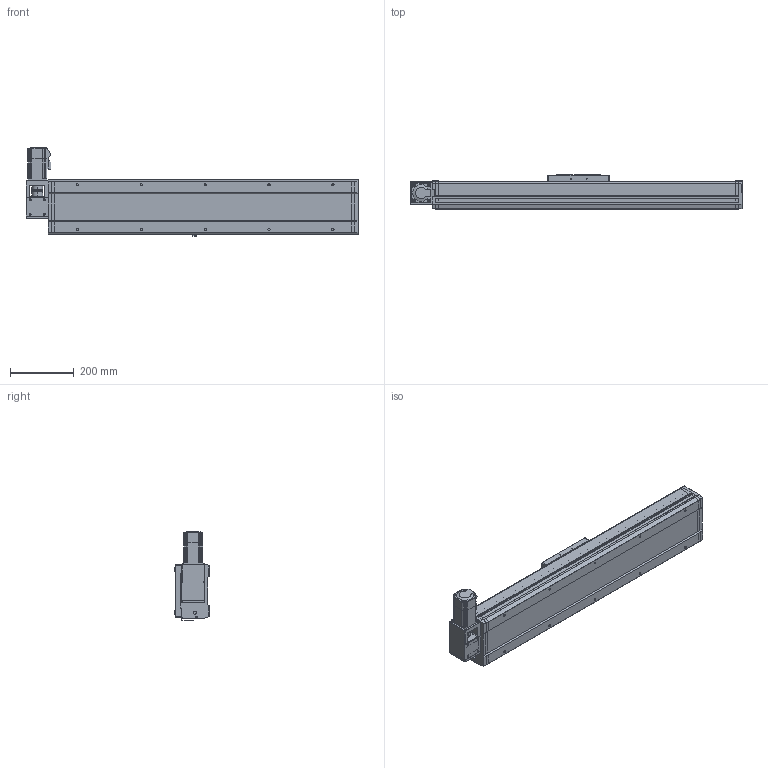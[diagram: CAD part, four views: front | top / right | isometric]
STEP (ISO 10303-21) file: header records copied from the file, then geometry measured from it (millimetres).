
FILE_DESCRIPTION((''),'2;1');
FILE_NAME('170-TZJ3FL-S650_ASM','2015-12-04T',('lenovo'),(''),'PRO/ENGINEER BY PARAMETRIC TECHNOLOGY CORPORATION, 2010280','PRO/ENGINEER BY PARAMETRIC TECHNOLOGY CORPORATION, 2010280','');
FILE_SCHEMA(('CONFIG_CONTROL_DESIGN'));
Length unit declared in the file: millimetre
Products named in the file (5): 170-TJFL-DZ; 170-HK; 170-HDB-01; 170-TZJ3FL-DJZ; 170-TZJ3FL-S650_ASM
Assembly tree (4 placements, depth 2):
  170-TZJ3FL-S650_ASM
    170-TJFL-DZ
    170-HK
    170-HDB-01
    170-TZJ3FL-DJZ
Bounding box: 1039 x 107 x 278.5 mm (x, y, z)
Volume: 8034431.4 mm3; surface area: 1248425.9 mm2
Topology: 6 solids, 30 shells, 1474 faces, 4009 edges, 2673 vertices
Faces by surface type: plane 790, cylinder 543, cone 113, torus 28
Entity records: 47259 total; most frequent: CARTESIAN_POINT 8439, DIRECTION 8292, ORIENTED_EDGE 8018, EDGE_CURVE 4009, AXIS2_PLACEMENT_3D 2842, VERTEX_POINT 2673, VECTOR 2608, LINE 2608
